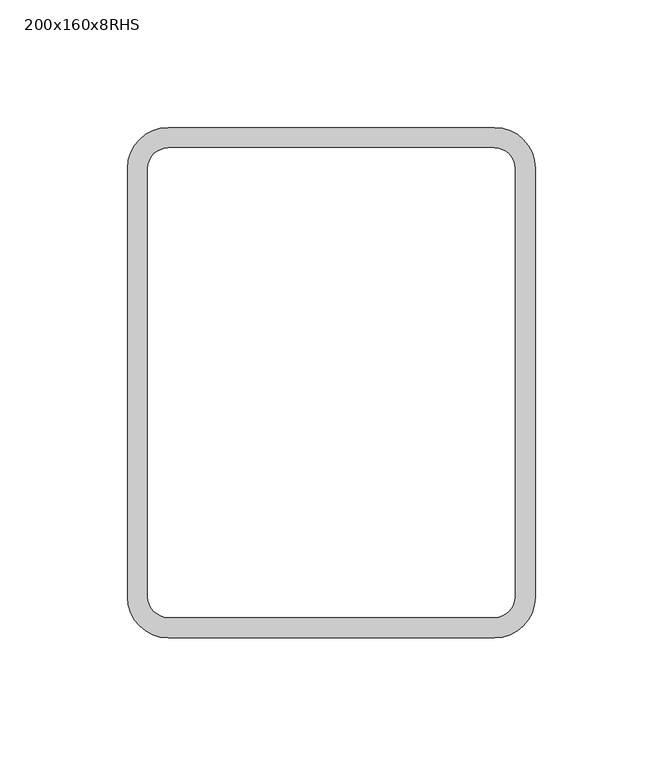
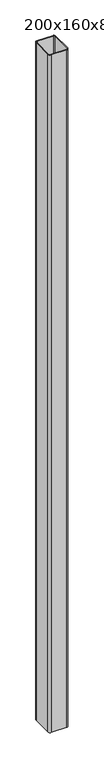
"""IFC4 building model written with IfcOpenShell, lengths in millimetres: column geometry, ППС-Прямоугольное пустотелое сечение-Колонна : 200x160x8RHS."""

from ifc_helpers import new_model, si_unit, point, frame_2d, origin, origin_with_axes, place, context, project, spatial, polyline, circle_curve, trimmed, segment, composite_curve, outline, extrude, source, transform, mapped, element, save


def column_200x160x8rhs_aa57b542(model_context):
    return source(origin(), model_context, "Body", "SweptSolid", [
        extrude(outline(composite_curve([segment(polyline([(64.0, -100.0), (-64.0, -100.0)]), True, "CONTINUOUS"), segment(trimmed(circle_curve(frame_2d((-64.0, -84.0)), 16.0), [point((-64.0, -100.0))], [point((-80.0, -84.0))], False, "CARTESIAN"), True, "CONTINUOUS"), segment(polyline([(-80.0, -84.0), (-80.0, 84.0)]), True, "CONTINUOUS"), segment(trimmed(circle_curve(frame_2d((-64.0, 84.0)), 16.0), [point((-80.0, 84.0))], [point((-64.0, 100.0))], False, "CARTESIAN"), True, "CONTINUOUS"), segment(polyline([(-64.0, 100.0), (64.0, 100.0)]), True, "CONTINUOUS"), segment(trimmed(circle_curve(frame_2d((64.0, 84.0)), 16.0), [point((64.0, 100.0))], [point((80.0, 84.0))], False, "CARTESIAN"), True, "CONTINUOUS"), segment(polyline([(80.0, 84.0), (80.0, -84.0)]), True, "CONTINUOUS"), segment(trimmed(circle_curve(frame_2d((64.0, -84.0)), 16.0), [point((80.0, -84.0))], [point((64.0, -100.0))], False, "CARTESIAN"), True, "CONTINUOUS")], self_intersect=False), holes=[composite_curve([segment(trimmed(circle_curve(frame_2d((64.0, -84.0)), 8.0), [point((64.0, -92.0))], [point((72.0, -84.0))], True, "CARTESIAN"), True, "CONTINUOUS"), segment(polyline([(72.0, -84.0), (72.0, 84.0)]), True, "CONTINUOUS"), segment(trimmed(circle_curve(frame_2d((64.0, 84.0)), 8.0), [point((72.0, 84.0))], [point((64.0, 92.0))], True, "CARTESIAN"), True, "CONTINUOUS"), segment(polyline([(64.0, 92.0), (-64.0, 92.0)]), True, "CONTINUOUS"), segment(trimmed(circle_curve(frame_2d((-64.0, 84.0)), 8.0), [point((-64.0, 92.0))], [point((-72.0, 84.0))], True, "CARTESIAN"), True, "CONTINUOUS"), segment(polyline([(-72.0, 84.0), (-72.0, -84.0)]), True, "CONTINUOUS"), segment(trimmed(circle_curve(frame_2d((-64.0, -84.0)), 8.0), [point((-72.0, -84.0))], [point((-64.0, -92.0))], True, "CARTESIAN"), True, "CONTINUOUS"), segment(polyline([(-64.0, -92.0), (64.0, -92.0)]), True, "CONTINUOUS")], self_intersect=False)]), origin_with_axes(), (0.0, 0.0, 1.0), 5825.0),
    ])


if __name__ == "__main__":
    model = new_model("IFC4")
    model_context = context("Model", 3, world=origin())
    ifc_project = project(units=[si_unit("LENGTHUNIT", "METRE", prefix="MILLI")], contexts=[model_context])
    site = spatial("IfcSite", under=ifc_project)
    building = spatial("IfcBuilding", under=site)
    placement = place(None, origin())
    column_200x160x8rhs_shape = column_200x160x8rhs_aa57b542(model_context)
    element("IfcColumn", 1, ObjectType="ППС-Прямоугольное пустотелое сечение-Колонна : 200x160x8RHS", at=placement, inside=building, context=model_context, shape_type="MappedRepresentation", body=[
        mapped(column_200x160x8rhs_shape, transform((0.0, 0.0, 0.0), x_axis=(1.0, 0.0, 0.0), y_axis=(0.0, 1.0, 0.0), z_axis=(0.0, 0.0, 1.0))),
    ])
    save(model, "model.ifc")
